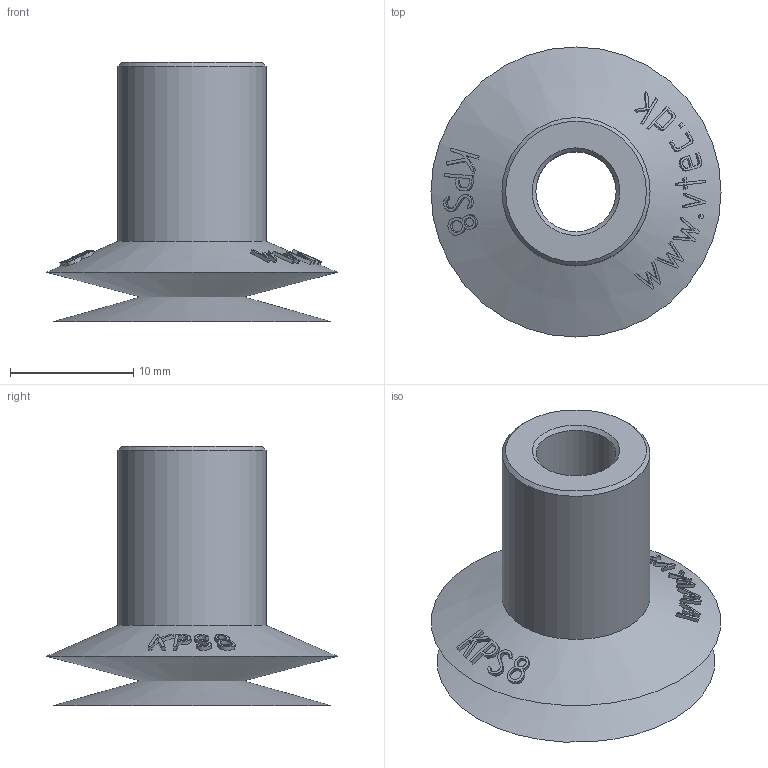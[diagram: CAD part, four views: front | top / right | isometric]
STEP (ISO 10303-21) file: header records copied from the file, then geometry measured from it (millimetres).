
FILE_DESCRIPTION( ( 'STEP AP203' ), '1' );
FILE_NAME( 'C:/撲啗紫賊-02/3D-蘋驍煎斜/Vacuum Pad/KPS series/KPS-8.stp', '2006-04-24T11:01:05', ( ' ' ), ( ' ' ), 'XStep 1.0', ' ', ' ' );
FILE_SCHEMA( ( 'CONFIG_CONTROL_DESIGN) ( )' ) );
Length unit declared in the file: metre
Products named in the file (1): 1
Bounding box: 23.5 x 23.5 x 21 mm (x, y, z)
Volume: 1822.6 mm3; surface area: 2849.4 mm2
Topology: 1 solids, 1 shells, 198 faces, 503 edges, 327 vertices
Faces by surface type: bspline 129, cone 28, plane 21, cylinder 20
Full cylindrical faces by diameter (mm): 6.5 x1, 12 x1
Entity records: 10963 total; most frequent: CARTESIAN_POINT 7229, ORIENTED_EDGE 978, EDGE_CURVE 489, B_SPLINE_CURVE_WITH_KNOTS 342, DIRECTION 328, VERTEX_POINT 325, EDGE_LOOP 232, FACE_OUTER_BOUND 202
